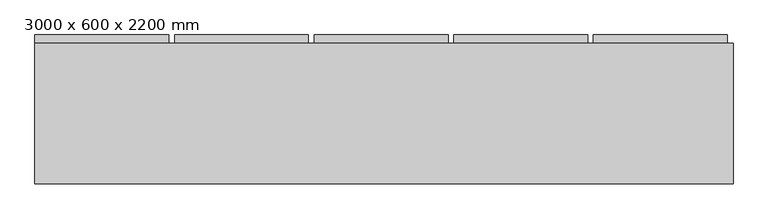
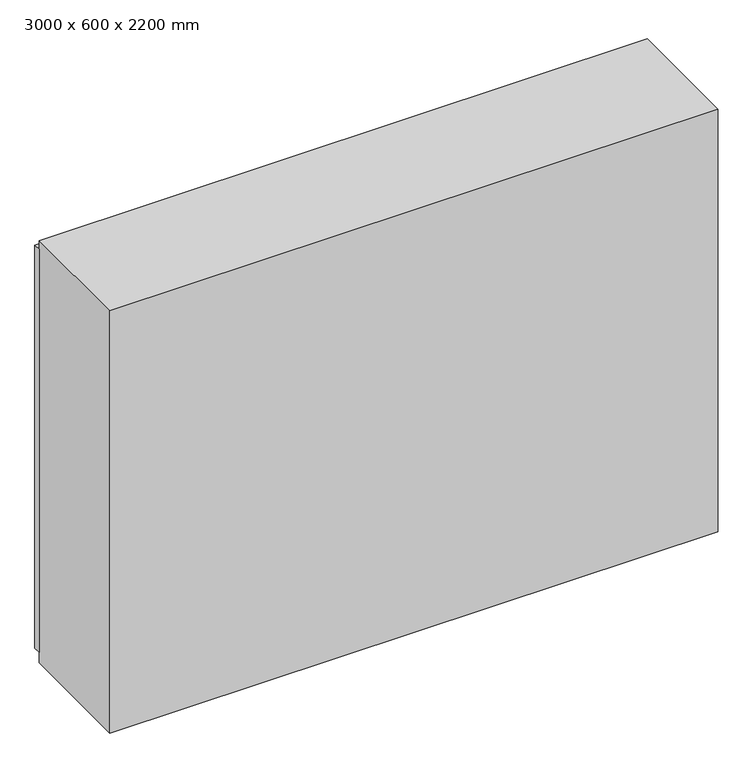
"""IFC4 building model written with IfcOpenShell, lengths in millimetres: furniture geometry, Shelved_closet_Armario_o_estanteria_Simple_y_paramtrico_14422 : 3000 x 600 x 2200 mm."""

from ifc_helpers import new_model, si_unit, frame, origin, place, context, project, spatial, polyline, outline, extrude, faceted_brep, source, transform, mapped, element, save


def furniture_3000_x_600_x_2200_mm_09ad38c8(model_context):
    return source(origin(), model_context, "Body", "SolidModel", [
        extrude(outline(polyline([(1600.8, 654.8), (1600.8, 54.8), (-1299.2, 54.8), (-1299.2, 654.8), (1600.8, 654.8)])), frame((0.0, 0.0, 2000.0), z_axis=(0.0, 0.0, 1.0), x_axis=(1.0, 0.0, 0.0)), (0.0, 0.0, 1.0), 50.0),
        extrude(outline(polyline([(1600.8, 654.8), (1600.8, 54.8), (-1299.2, 54.8), (-1299.2, 654.8), (1600.8, 654.8)])), frame((0.0, 0.0, 1600.0), z_axis=(0.0, 0.0, 1.0), x_axis=(1.0, 0.0, 0.0)), (0.0, 0.0, 1.0), 50.0),
        extrude(outline(polyline([(1600.8, 654.8), (1600.8, 54.8), (-1299.2, 54.8), (-1299.2, 654.8), (1600.8, 654.8)])), frame((0.0, 0.0, 1200.0), z_axis=(0.0, 0.0, 1.0), x_axis=(1.0, 0.0, 0.0)), (0.0, 0.0, 1.0), 50.0),
        extrude(outline(polyline([(1600.8, 654.8), (1600.8, 54.8), (-1299.2, 54.8), (-1299.2, 654.8), (1600.8, 654.8)])), frame((0.0, 0.0, 800.0), z_axis=(0.0, 0.0, 1.0), x_axis=(1.0, 0.0, 0.0)), (0.0, 0.0, 1.0), 50.0),
        extrude(outline(polyline([(1600.8, 654.8), (1600.8, 54.8), (-1299.2, 54.8), (-1299.2, 654.8), (1600.8, 654.8)])), frame((0.0, 0.0, 400.0), z_axis=(0.0, 0.0, 1.0), x_axis=(1.0, 0.0, 0.0)), (0.0, 0.0, 1.0), 50.0),
        extrude(outline(polyline([(1050.0, 654.8), (1050.0, 689.8), (1625.0, 689.8), (1625.0, 654.8), (1050.0, 654.8)])), frame((0.0, 0.0, 54.2), z_axis=(0.0, 0.0, 1.0), x_axis=(1.0, 0.0, 0.0)), (0.0, 0.0, 1.0), 2100.0),
        extrude(outline(polyline([(450.0, 654.8), (450.0, 689.8), (1025.0, 689.8), (1025.0, 654.8), (450.0, 654.8)])), frame((0.0, 0.0, 54.2), z_axis=(0.0, 0.0, 1.0), x_axis=(1.0, 0.0, 0.0)), (0.0, 0.0, 1.0), 2100.0),
        extrude(outline(polyline([(-150.0, 654.8), (-150.0, 689.8), (425.0, 689.8), (425.0, 654.8), (-150.0, 654.8)])), frame((0.0, 0.0, 54.2), z_axis=(0.0, 0.0, 1.0), x_axis=(1.0, 0.0, 0.0)), (0.0, 0.0, 1.0), 2100.0),
        extrude(outline(polyline([(-750.0, 654.8), (-750.0, 689.8), (-175.0, 689.8), (-175.0, 654.8), (-750.0, 654.8)])), frame((0.0, 0.0, 54.2), z_axis=(0.0, 0.0, 1.0), x_axis=(1.0, 0.0, 0.0)), (0.0, 0.0, 1.0), 2100.0),
        extrude(outline(polyline([(-1350.0, 654.8), (-1350.0, 689.8), (-775.0, 689.8), (-775.0, 654.8), (-1350.0, 654.8)])), frame((0.0, 0.0, 54.2), z_axis=(0.0, 0.0, 1.0), x_axis=(1.0, 0.0, 0.0)), (0.0, 0.0, 1.0), 2100.0),
        faceted_brep([(1650.0, 654.8, 0.0), (-1350.0, 654.8, 0.0), (-1350.0, 654.8, 2200.0), (1650.0, 654.8, 2200.0), (1599.2, 654.8, 2149.2), (-1299.2, 654.8, 2149.2), (-1299.2, 654.8, 76.2), (1599.2, 654.8, 76.2), (1650.0, 49.8, 2200.0), (1650.0, 49.8, 0.0), (-1350.0, 49.8, 2200.0), (-1350.0, 49.8, 0.0), (1599.2, 84.8, 76.2), (1599.2, 84.8, 2149.2), (-1299.2, 84.8, 2149.2), (-1299.2, 84.8, 76.2)], [[[0, 1, 2, 3], [4, 5, 6, 7]], [[3, 8, 9, 0]], [[2, 10, 8, 3]], [[1, 11, 10, 2]], [[9, 11, 1, 0]], [[7, 12, 13, 4]], [[5, 14, 15, 6]], [[4, 13, 14, 5]], [[6, 15, 12, 7]], [[12, 15, 14, 13]], [[10, 11, 9, 8]]]),
    ])


if __name__ == "__main__":
    model = new_model("IFC4")
    model_context = context("Model", 3, world=origin())
    ifc_project = project(units=[si_unit("LENGTHUNIT", "METRE", prefix="MILLI")], contexts=[model_context])
    site = spatial("IfcSite", under=ifc_project)
    building = spatial("IfcBuilding", under=site)
    placement = place(None, origin())
    furniture_3000_x_600_x_2200_mm_shape = furniture_3000_x_600_x_2200_mm_09ad38c8(model_context)
    element("IfcFurniture", 1, ObjectType="Shelved_closet_Armario_o_estanteria_Simple_y_paramtrico_14422 : 3000 x 600 x 2200 mm", at=placement, inside=building, context=model_context, shape_type="MappedRepresentation", body=[
        mapped(furniture_3000_x_600_x_2200_mm_shape, transform((0.0, 0.0, 0.0), x_axis=(1.0, 0.0, 0.0), y_axis=(0.0, 1.0, 0.0), z_axis=(0.0, 0.0, 1.0))),
    ])
    save(model, "model.ifc")
